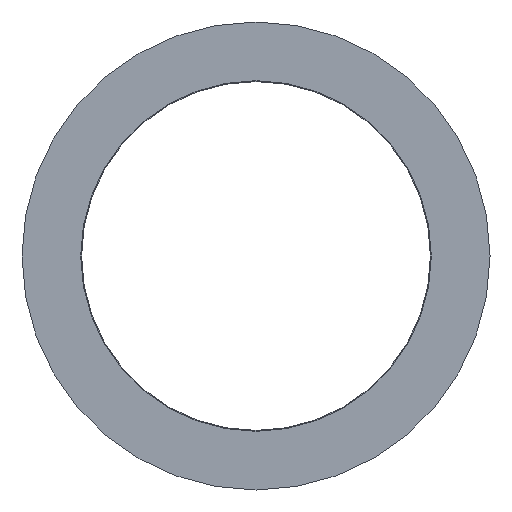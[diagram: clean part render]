
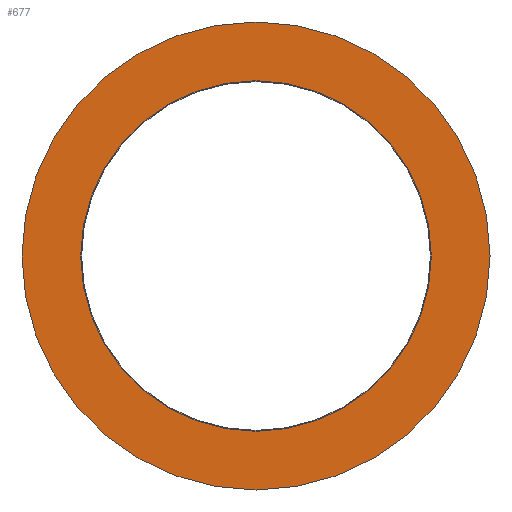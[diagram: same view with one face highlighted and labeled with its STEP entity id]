
A CAD part, front view. The second image highlights one B-rep face of the part: STEP entity #677.
In plain terms, the highlighted planar face has unit normal (0, -1, 0).
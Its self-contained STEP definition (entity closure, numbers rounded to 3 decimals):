
#156=CARTESIAN_POINT('',(0.,0.,0.));
#157=DIRECTION('',(0.,1.,0.));
#158=DIRECTION('',(0.,0.,-1.));
#159=AXIS2_PLACEMENT_3D('',#156,#157,#158);
#161=CARTESIAN_POINT('',(0.,0.,0.));
#162=DIRECTION('',(0.,1.,0.));
#163=DIRECTION('',(0.,0.,1.));
#164=AXIS2_PLACEMENT_3D('',#161,#162,#163);
#166=CARTESIAN_POINT('',(0.,0.,0.));
#167=DIRECTION('',(0.,-1.,0.));
#168=DIRECTION('',(0.,0.,-1.));
#169=AXIS2_PLACEMENT_3D('',#166,#167,#168);
#171=CARTESIAN_POINT('',(0.,0.,0.));
#172=DIRECTION('',(0.,-1.,0.));
#173=DIRECTION('',(0.,0.,1.));
#174=AXIS2_PLACEMENT_3D('',#171,#172,#173);
#461=CARTESIAN_POINT('',(0.,0.,20.6));
#463=VERTEX_POINT('',#461);
#465=CARTESIAN_POINT('',(0.,0.,-20.6));
#467=VERTEX_POINT('',#465);
#505=CARTESIAN_POINT('',(0.,0.,27.5));
#507=VERTEX_POINT('',#505);
#509=CARTESIAN_POINT('',(0.,0.,-27.5));
#511=VERTEX_POINT('',#509);
#661=CARTESIAN_POINT('',(0.,0.,27.5));
#662=DIRECTION('',(0.,1.,0.));
#663=DIRECTION('',(0.,0.,1.));
#664=AXIS2_PLACEMENT_3D('',#661,#662,#663);
#665=PLANE('',#664);
#667=ORIENTED_EDGE('',*,*,#666,.F.);
#668=ORIENTED_EDGE('',*,*,#651,.F.);
#669=EDGE_LOOP('',(#667,#668));
#670=FACE_OUTER_BOUND('',#669,.F.);
#672=ORIENTED_EDGE('',*,*,#671,.F.);
#674=ORIENTED_EDGE('',*,*,#673,.F.);
#675=EDGE_LOOP('',(#672,#674));
#676=FACE_BOUND('',#675,.F.);
#160=CIRCLE('',#159,20.6);
#165=CIRCLE('',#164,20.6);
#170=CIRCLE('',#169,27.5);
#175=CIRCLE('',#174,27.5);
#651=EDGE_CURVE('',#507,#511,#175,.T.);
#666=EDGE_CURVE('',#511,#507,#170,.T.);
#671=EDGE_CURVE('',#467,#463,#160,.T.);
#673=EDGE_CURVE('',#463,#467,#165,.T.);
#677=ADVANCED_FACE('',(#670,#676),#665,.F.);
